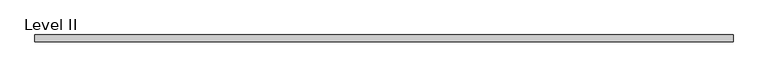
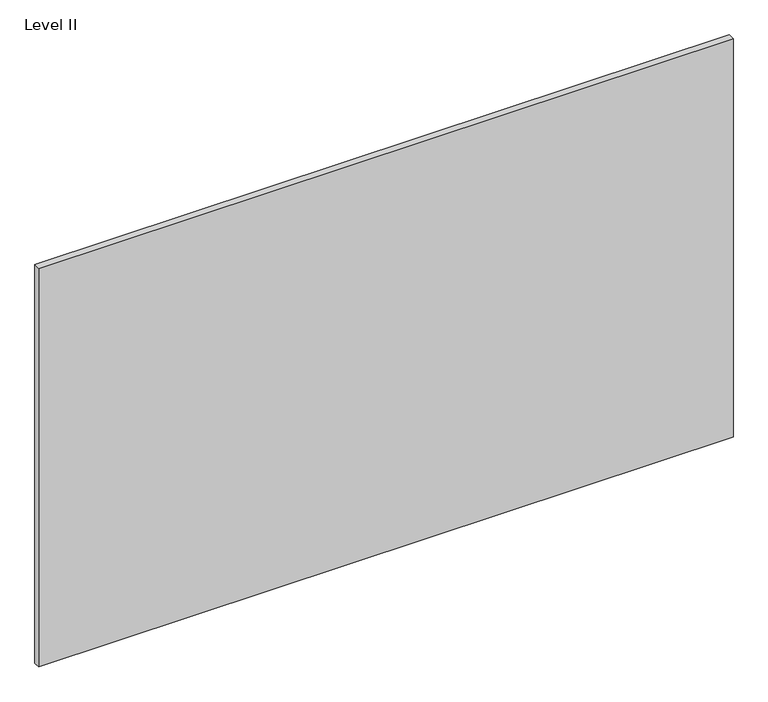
"""IFC4 building model written with IfcOpenShell, lengths in millimetres: proxy geometry, Panel-Fascia-Teknion-Altos-Landscape : Level II."""

from ifc_helpers import new_model, si_unit, frame, origin, place, context, project, spatial, polyline, outline, extrude, source, transform, mapped, element, save


def level_ii_4f3a5f4c(model_context):
    return source(origin(), model_context, "Body", "SweptSolid", [
        extrude(outline(polyline([(998.8407125, 9.525), (998.8407125, -9.525), (-998.8407125, -9.525), (-998.8407125, 9.525), (998.8407125, 9.525)])), frame((0.0, 0.0, 3.175), z_axis=(0.0, 0.0, 1.0), x_axis=(1.0, 0.0, 0.0)), (0.0, 0.0, 1.0), 1212.85),
    ])


if __name__ == "__main__":
    model = new_model("IFC4")
    model_context = context("Model", 3, world=origin())
    ifc_project = project(units=[si_unit("LENGTHUNIT", "METRE", prefix="MILLI")], contexts=[model_context])
    site = spatial("IfcSite", under=ifc_project)
    building = spatial("IfcBuilding", under=site)
    placement = place(None, origin())
    level_ii_shape = level_ii_4f3a5f4c(model_context)
    element("IfcBuildingElementProxy", 1, Name="Panel-Fascia-Teknion-Altos-Landscape : Level II", ObjectType="Panel-Fascia-Teknion-Altos-Landscape : Level II", at=placement, inside=building, context=model_context, shape_type="MappedRepresentation", body=[
        mapped(level_ii_shape, transform((0.0, 0.0, 0.0), x_axis=(1.0, 0.0, 0.0), y_axis=(0.0, 1.0, 0.0), z_axis=(0.0, 0.0, 1.0))),
    ])
    save(model, "model.ifc")
